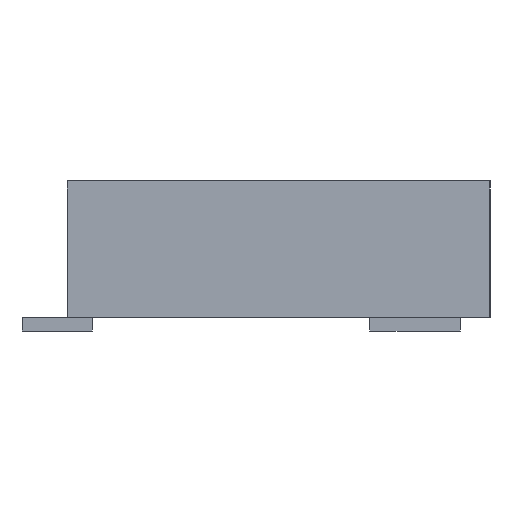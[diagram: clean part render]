
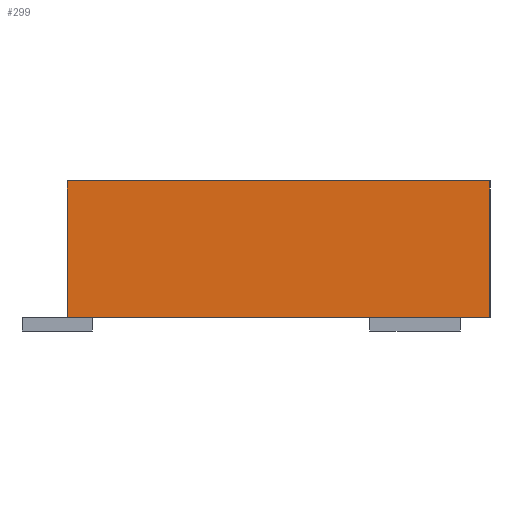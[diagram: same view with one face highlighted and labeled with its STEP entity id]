
A CAD part, left-side view. The second image highlights one B-rep face of the part: STEP entity #299.
In plain terms, the highlighted planar face has unit normal (-1, 0, 0).
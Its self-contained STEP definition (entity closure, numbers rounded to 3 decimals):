
#36 = EDGE_CURVE('',#37,#39,#41,.T.);
#37 = VERTEX_POINT('',#38);
#38 = CARTESIAN_POINT('',(-9.125,1.2,0.));
#39 = VERTEX_POINT('',#40);
#40 = CARTESIAN_POINT('',(-9.125,1.2,1.));
#41 = SURFACE_CURVE('',#42,(#46,#58),.PCURVE_S1.);
#42 = LINE('',#43,#44);
#43 = CARTESIAN_POINT('',(-9.125,1.2,0.));
#44 = VECTOR('',#45,1.);
#45 = DIRECTION('',(0.,0.,1.));
#46 = PCURVE('',#47,#52);
#47 = PLANE('',#48);
#48 = AXIS2_PLACEMENT_3D('',#49,#50,#51);
#49 = CARTESIAN_POINT('',(-9.125,1.2,0.));
#50 = DIRECTION('',(0.,1.,0.));
#51 = DIRECTION('',(1.,0.,0.));
#52 = DEFINITIONAL_REPRESENTATION('',(#53),#57);
#53 = LINE('',#54,#55);
#54 = CARTESIAN_POINT('',(0.,0.));
#55 = VECTOR('',#56,1.);
#56 = DIRECTION('',(0.,-1.));
#57 = ( GEOMETRIC_REPRESENTATION_CONTEXT(2) 
PARAMETRIC_REPRESENTATION_CONTEXT() REPRESENTATION_CONTEXT('2D SPACE',''
  ) );
#58 = PCURVE('',#59,#64);
#59 = PLANE('',#60);
#60 = AXIS2_PLACEMENT_3D('',#61,#62,#63);
#61 = CARTESIAN_POINT('',(-9.125,-1.9,0.));
#62 = DIRECTION('',(-1.,0.,0.));
#63 = DIRECTION('',(0.,1.,0.));
#64 = DEFINITIONAL_REPRESENTATION('',(#65),#69);
#65 = LINE('',#66,#67);
#66 = CARTESIAN_POINT('',(3.1,0.));
#67 = VECTOR('',#68,1.);
#68 = DIRECTION('',(0.,-1.));
#69 = ( GEOMETRIC_REPRESENTATION_CONTEXT(2) 
PARAMETRIC_REPRESENTATION_CONTEXT() REPRESENTATION_CONTEXT('2D SPACE',''
  ) );
#87 = PLANE('',#88);
#88 = AXIS2_PLACEMENT_3D('',#89,#90,#91);
#89 = CARTESIAN_POINT('',(0.,-0.35,1.));
#90 = DIRECTION('',(0.,0.,-1.));
#91 = DIRECTION('',(0.,-1.,0.));
#141 = PLANE('',#142);
#142 = AXIS2_PLACEMENT_3D('',#143,#144,#145);
#143 = CARTESIAN_POINT('',(0.,-0.35,0.)
  );
#144 = DIRECTION('',(0.,0.,-1.));
#145 = DIRECTION('',(0.,-1.,0.));
#196 = PLANE('',#197);
#197 = AXIS2_PLACEMENT_3D('',#198,#199,#200);
#198 = CARTESIAN_POINT('',(9.125,-1.9,0.));
#199 = DIRECTION('',(0.,-1.,0.));
#200 = DIRECTION('',(-1.,0.,0.));
#234 = VERTEX_POINT('',#235);
#235 = CARTESIAN_POINT('',(-9.125,-1.9,1.));
#256 = EDGE_CURVE('',#257,#234,#259,.T.);
#257 = VERTEX_POINT('',#258);
#258 = CARTESIAN_POINT('',(-9.125,-1.9,0.));
#259 = SURFACE_CURVE('',#260,(#264,#271),.PCURVE_S1.);
#260 = LINE('',#261,#262);
#261 = CARTESIAN_POINT('',(-9.125,-1.9,0.));
#262 = VECTOR('',#263,1.);
#263 = DIRECTION('',(0.,0.,1.));
#264 = PCURVE('',#196,#265);
#265 = DEFINITIONAL_REPRESENTATION('',(#266),#270);
#266 = LINE('',#267,#268);
#267 = CARTESIAN_POINT('',(18.25,0.));
#268 = VECTOR('',#269,1.);
#269 = DIRECTION('',(0.,-1.));
#270 = ( GEOMETRIC_REPRESENTATION_CONTEXT(2) 
PARAMETRIC_REPRESENTATION_CONTEXT() REPRESENTATION_CONTEXT('2D SPACE',''
  ) );
#271 = PCURVE('',#59,#272);
#272 = DEFINITIONAL_REPRESENTATION('',(#273),#277);
#273 = LINE('',#274,#275);
#274 = CARTESIAN_POINT('',(0.,0.));
#275 = VECTOR('',#276,1.);
#276 = DIRECTION('',(0.,-1.));
#277 = ( GEOMETRIC_REPRESENTATION_CONTEXT(2) 
PARAMETRIC_REPRESENTATION_CONTEXT() REPRESENTATION_CONTEXT('2D SPACE',''
  ) );
#299 = ADVANCED_FACE('',(#300),#59,.T.);
#300 = FACE_BOUND('',#301,.T.);
#301 = EDGE_LOOP('',(#302,#303,#324,#325));
#302 = ORIENTED_EDGE('',*,*,#256,.T.);
#303 = ORIENTED_EDGE('',*,*,#304,.T.);
#304 = EDGE_CURVE('',#234,#39,#305,.T.);
#305 = SURFACE_CURVE('',#306,(#310,#317),.PCURVE_S1.);
#306 = LINE('',#307,#308);
#307 = CARTESIAN_POINT('',(-9.125,-1.9,1.));
#308 = VECTOR('',#309,1.);
#309 = DIRECTION('',(0.,1.,0.));
#310 = PCURVE('',#59,#311);
#311 = DEFINITIONAL_REPRESENTATION('',(#312),#316);
#312 = LINE('',#313,#314);
#313 = CARTESIAN_POINT('',(0.,-1.));
#314 = VECTOR('',#315,1.);
#315 = DIRECTION('',(1.,0.));
#316 = ( GEOMETRIC_REPRESENTATION_CONTEXT(2) 
PARAMETRIC_REPRESENTATION_CONTEXT() REPRESENTATION_CONTEXT('2D SPACE',''
  ) );
#317 = PCURVE('',#87,#318);
#318 = DEFINITIONAL_REPRESENTATION('',(#319),#323);
#319 = LINE('',#320,#321);
#320 = CARTESIAN_POINT('',(1.55,9.125));
#321 = VECTOR('',#322,1.);
#322 = DIRECTION('',(-1.,0.));
#323 = ( GEOMETRIC_REPRESENTATION_CONTEXT(2) 
PARAMETRIC_REPRESENTATION_CONTEXT() REPRESENTATION_CONTEXT('2D SPACE',''
  ) );
#324 = ORIENTED_EDGE('',*,*,#36,.F.);
#325 = ORIENTED_EDGE('',*,*,#326,.F.);
#326 = EDGE_CURVE('',#257,#37,#327,.T.);
#327 = SURFACE_CURVE('',#328,(#332,#339),.PCURVE_S1.);
#328 = LINE('',#329,#330);
#329 = CARTESIAN_POINT('',(-9.125,-1.9,0.));
#330 = VECTOR('',#331,1.);
#331 = DIRECTION('',(0.,1.,0.));
#332 = PCURVE('',#59,#333);
#333 = DEFINITIONAL_REPRESENTATION('',(#334),#338);
#334 = LINE('',#335,#336);
#335 = CARTESIAN_POINT('',(0.,0.));
#336 = VECTOR('',#337,1.);
#337 = DIRECTION('',(1.,0.));
#338 = ( GEOMETRIC_REPRESENTATION_CONTEXT(2) 
PARAMETRIC_REPRESENTATION_CONTEXT() REPRESENTATION_CONTEXT('2D SPACE',''
  ) );
#339 = PCURVE('',#141,#340);
#340 = DEFINITIONAL_REPRESENTATION('',(#341),#345);
#341 = LINE('',#342,#343);
#342 = CARTESIAN_POINT('',(1.55,9.125));
#343 = VECTOR('',#344,1.);
#344 = DIRECTION('',(-1.,0.));
#345 = ( GEOMETRIC_REPRESENTATION_CONTEXT(2) 
PARAMETRIC_REPRESENTATION_CONTEXT() REPRESENTATION_CONTEXT('2D SPACE',''
  ) );
